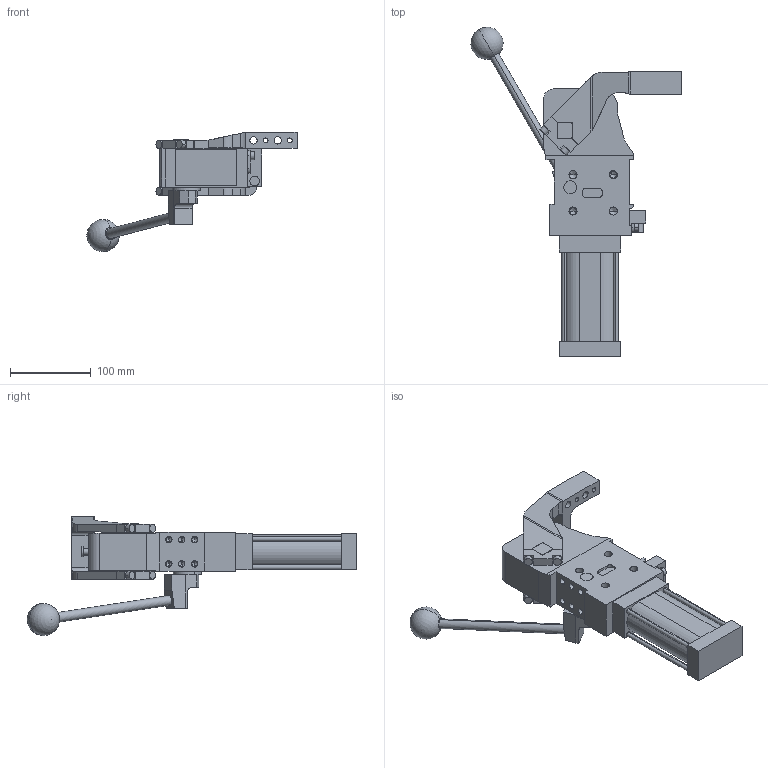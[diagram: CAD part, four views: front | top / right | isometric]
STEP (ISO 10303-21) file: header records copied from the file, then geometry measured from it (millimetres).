
FILE_DESCRIPTION (( 'STEP AP214' ), '1' );
FILE_NAME ('cplm50lbv3ssi1g_26.STEP', '2023-01-26T13:53:42', ( '' ), ( '' ), 'SwSTEP 2.0', 'SolidWorks 2022', '' );
FILE_SCHEMA (( 'AUTOMOTIVE_DESIGN' ));
Length unit declared in the file: millimetre
Products named in the file (5): cplm50lbv3ssi1g_26; meccanica_cplm_50; blocchetto_VEP_0; comando_manuale_cplm_50; leva_dx_offset_45_cpl50
Assembly tree (4 placements, depth 2):
  cplm50lbv3ssi1g_26
    meccanica_cplm_50
    blocchetto_VEP_0
    leva_dx_offset_45_cpl50
    comando_manuale_cplm_50
Bounding box: 260.54 x 408.46 x 148 mm (x, y, z)
Volume: 1483582.8 mm3; surface area: 184927.1 mm2
Topology: 4 solids, 4 shells, 433 faces, 1114 edges, 695 vertices
Faces by surface type: plane 214, cylinder 167, cone 50, sphere 2
Entity records: 14434 total; most frequent: CARTESIAN_POINT 2298, DIRECTION 2278, ORIENTED_EDGE 2126, EDGE_CURVE 1063, AXIS2_PLACEMENT_3D 790, LINE 698, VECTOR 698, VERTEX_POINT 692
